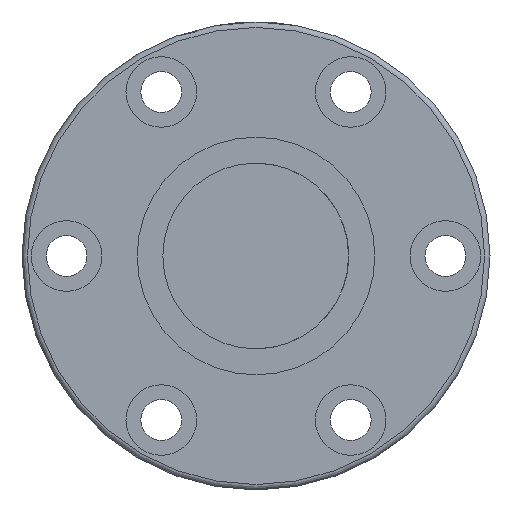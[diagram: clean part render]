
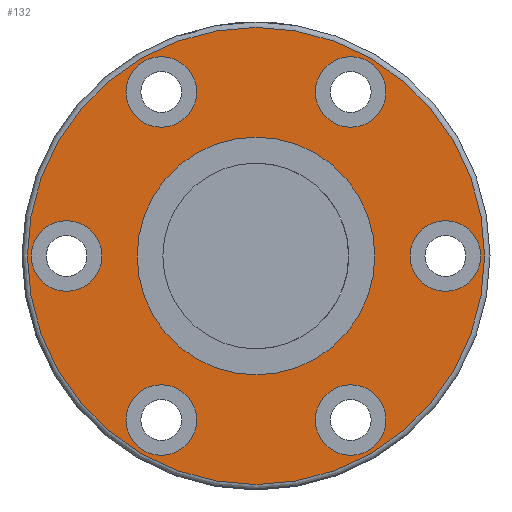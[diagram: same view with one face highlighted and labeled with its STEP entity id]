
A CAD part, front view. The second image highlights one B-rep face of the part: STEP entity #132.
In plain terms, the highlighted planar face has unit normal (0, -1, 0).
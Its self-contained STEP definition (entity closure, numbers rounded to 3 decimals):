
#112=PLANE('',#649);
#132=ADVANCED_FACE('',(#203,#204,#205,#206,#207,#208,#209,#210),#112,.F.);
#203=FACE_BOUND('',#298,.T.);
#204=FACE_BOUND('',#299,.T.);
#205=FACE_BOUND('',#300,.T.);
#206=FACE_BOUND('',#301,.T.);
#207=FACE_BOUND('',#302,.T.);
#208=FACE_BOUND('',#303,.T.);
#209=FACE_BOUND('',#304,.T.);
#210=FACE_BOUND('',#305,.T.);
#298=EDGE_LOOP('',(#396));
#299=EDGE_LOOP('',(#397));
#300=EDGE_LOOP('',(#398));
#301=EDGE_LOOP('',(#399));
#302=EDGE_LOOP('',(#400));
#303=EDGE_LOOP('',(#401));
#304=EDGE_LOOP('',(#402));
#305=EDGE_LOOP('',(#403));
#396=ORIENTED_EDGE('',*,*,#539,.T.);
#397=ORIENTED_EDGE('',*,*,#540,.T.);
#398=ORIENTED_EDGE('',*,*,#541,.T.);
#399=ORIENTED_EDGE('',*,*,#542,.T.);
#400=ORIENTED_EDGE('',*,*,#543,.T.);
#401=ORIENTED_EDGE('',*,*,#544,.T.);
#402=ORIENTED_EDGE('',*,*,#545,.T.);
#403=ORIENTED_EDGE('',*,*,#546,.F.);
#490=VERTEX_POINT('',#925);
#491=VERTEX_POINT('',#927);
#492=VERTEX_POINT('',#929);
#493=VERTEX_POINT('',#931);
#494=VERTEX_POINT('',#933);
#495=VERTEX_POINT('',#935);
#496=VERTEX_POINT('',#937);
#497=VERTEX_POINT('',#939);
#539=EDGE_CURVE('',#490,#490,#588,.T.);
#540=EDGE_CURVE('',#491,#491,#589,.T.);
#541=EDGE_CURVE('',#492,#492,#590,.T.);
#542=EDGE_CURVE('',#493,#493,#591,.T.);
#543=EDGE_CURVE('',#494,#494,#592,.T.);
#544=EDGE_CURVE('',#495,#495,#593,.T.);
#545=EDGE_CURVE('',#496,#496,#594,.T.);
#546=EDGE_CURVE('',#497,#497,#595,.T.);
#588=CIRCLE('',#641,4.75);
#589=CIRCLE('',#642,4.75);
#590=CIRCLE('',#643,4.75);
#591=CIRCLE('',#644,4.75);
#592=CIRCLE('',#645,4.75);
#593=CIRCLE('',#646,4.75);
#594=CIRCLE('',#647,30.767);
#595=CIRCLE('',#648,16.);
#641=AXIS2_PLACEMENT_3D('',#924,#743,#744);
#642=AXIS2_PLACEMENT_3D('',#926,#745,#746);
#643=AXIS2_PLACEMENT_3D('',#928,#747,#748);
#644=AXIS2_PLACEMENT_3D('',#930,#749,#750);
#645=AXIS2_PLACEMENT_3D('',#932,#751,#752);
#646=AXIS2_PLACEMENT_3D('',#934,#753,#754);
#647=AXIS2_PLACEMENT_3D('',#936,#755,#756);
#648=AXIS2_PLACEMENT_3D('',#938,#757,#758);
#649=AXIS2_PLACEMENT_3D('',#940,#759,#760);
#743=DIRECTION('',(0.,1.,0.));
#744=DIRECTION('',(0.,0.,1.));
#745=DIRECTION('',(0.,1.,0.));
#746=DIRECTION('',(0.,0.,1.));
#747=DIRECTION('',(0.,1.,0.));
#748=DIRECTION('',(0.,0.,1.));
#749=DIRECTION('',(0.,1.,0.));
#750=DIRECTION('',(0.,0.,1.));
#751=DIRECTION('',(0.,1.,0.));
#752=DIRECTION('',(0.,0.,1.));
#753=DIRECTION('',(0.,1.,0.));
#754=DIRECTION('',(0.,0.,1.));
#755=DIRECTION('',(0.,-1.,0.));
#756=DIRECTION('',(0.,0.,1.));
#757=DIRECTION('',(0.,-1.,0.));
#758=DIRECTION('',(1.,0.,0.));
#759=DIRECTION('',(0.,1.,0.));
#760=DIRECTION('',(0.,0.,1.));
#924=CARTESIAN_POINT('',(25.539,-25.461,0.));
#925=CARTESIAN_POINT('',(25.539,-25.461,4.75));
#926=CARTESIAN_POINT('',(-25.461,-25.461,0.));
#927=CARTESIAN_POINT('',(-25.461,-25.461,4.75));
#928=CARTESIAN_POINT('',(12.789,-25.461,-22.084));
#929=CARTESIAN_POINT('',(12.789,-25.461,-17.334));
#930=CARTESIAN_POINT('',(-12.711,-25.461,-22.084));
#931=CARTESIAN_POINT('',(-12.711,-25.461,-17.334));
#932=CARTESIAN_POINT('',(12.789,-25.461,22.084));
#933=CARTESIAN_POINT('',(12.789,-25.461,26.834));
#934=CARTESIAN_POINT('',(-12.711,-25.461,22.084));
#935=CARTESIAN_POINT('',(-12.711,-25.461,26.834));
#936=CARTESIAN_POINT('',(0.039,-25.461,0.));
#937=CARTESIAN_POINT('',(0.039,-25.461,30.767));
#938=CARTESIAN_POINT('',(0.039,-25.461,0.));
#939=CARTESIAN_POINT('',(16.039,-25.461,0.));
#940=CARTESIAN_POINT('',(0.039,-25.461,0.));
